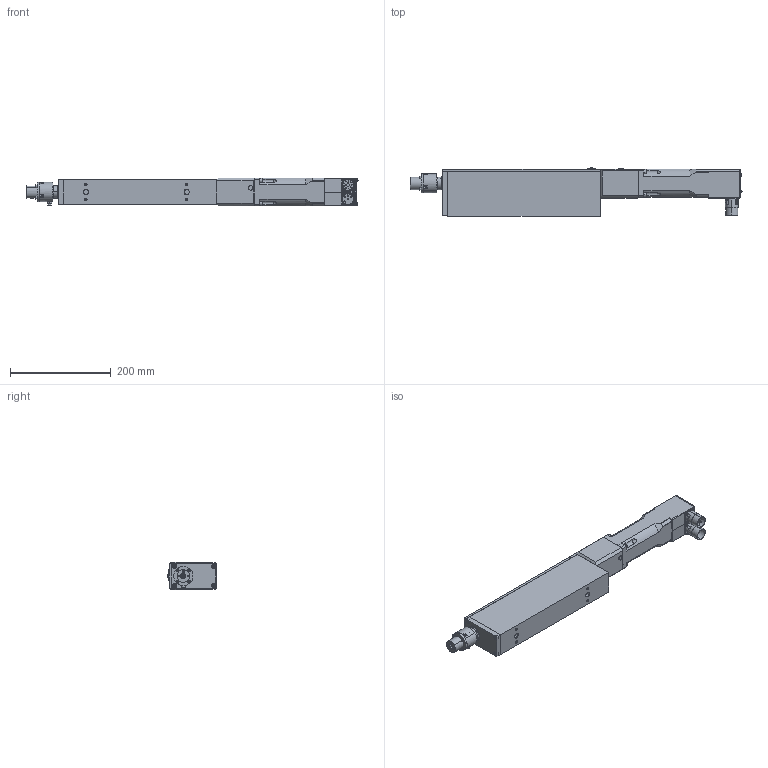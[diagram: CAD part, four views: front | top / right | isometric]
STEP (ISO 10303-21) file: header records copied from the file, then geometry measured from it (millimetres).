
FILE_DESCRIPTION (( 'STEP AP203' ), '1' );
FILE_NAME ('KM PR5ID010-020-030N.STEP', '2021-02-19T09:49:22', ( '' ), ( '' ), 'SwSTEP 2.0', 'SolidWorks 2016', '' );
FILE_SCHEMA (( 'CONFIG_CONTROL_DESIGN' ));
Products named in the file (2): KM PR5ID010-020-030N
Bounding box: 658.09 x 95.58 x 55 mm (x, y, z)
Volume: 1858434 mm3; surface area: 340743.2 mm2
Topology: 29 solids, 41 shells, 2210 faces, 5153 edges, 3058 vertices
Faces by surface type: plane 1023, cylinder 620, cone 424, bspline 82, torus 48, sphere 13
Entity records: 65429 total; most frequent: CARTESIAN_POINT 15960, DIRECTION 10490, ORIENTED_EDGE 9946, EDGE_CURVE 4973, AXIS2_PLACEMENT_3D 4026, VERTEX_POINT 3045, EDGE_LOOP 2530, LINE 2438
